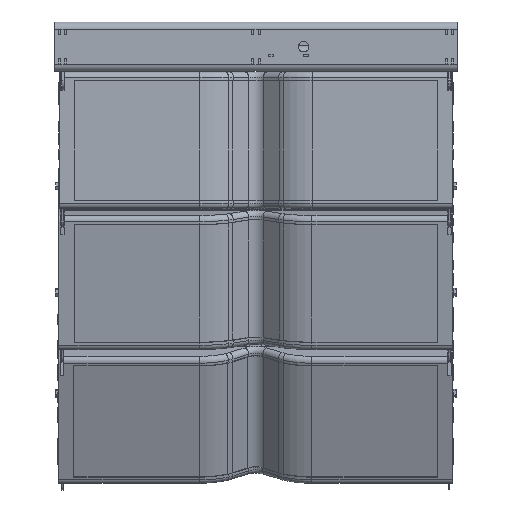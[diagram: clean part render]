
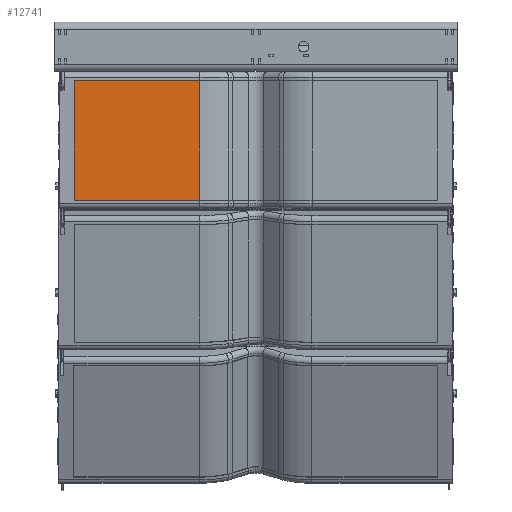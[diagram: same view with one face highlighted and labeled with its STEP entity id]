
A CAD part, front view. The second image highlights one B-rep face of the part: STEP entity #12741.
In plain terms, the highlighted planar face has unit normal (0, -1, 0) as drawn and (1, 0, 0) by its records, which use the part's own axes.
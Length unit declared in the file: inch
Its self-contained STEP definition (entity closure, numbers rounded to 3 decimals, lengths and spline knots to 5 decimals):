
#1922=FACE_OUTER_BOUND('',#2794,.T.);
#2794=EDGE_LOOP('',(#10690,#10691,#10692,#10693));
#4065=LINE('',#21143,#5183);
#4066=LINE('',#21147,#5184);
#4067=LINE('',#21149,#5185);
#4068=LINE('',#21150,#5186);
#5183=VECTOR('',#17073,8.5145);
#5184=VECTOR('',#17078,8.92315);
#5185=VECTOR('',#17079,8.5145);
#5186=VECTOR('',#17080,8.92315);
#6325=VERTEX_POINT('',#21140);
#6326=VERTEX_POINT('',#21142);
#6327=VERTEX_POINT('',#21146);
#6328=VERTEX_POINT('',#21148);
#7885=EDGE_CURVE('',#6325,#6326,#4065,.T.);
#7887=EDGE_CURVE('',#6325,#6327,#4066,.T.);
#7888=EDGE_CURVE('',#6327,#6328,#4067,.T.);
#7889=EDGE_CURVE('',#6326,#6328,#4068,.T.);
#10690=ORIENTED_EDGE('',*,*,#7887,.T.);
#10691=ORIENTED_EDGE('',*,*,#7888,.T.);
#10692=ORIENTED_EDGE('',*,*,#7889,.F.);
#10693=ORIENTED_EDGE('',*,*,#7885,.F.);
#12229=PLANE('',#13974);
#12741=ADVANCED_FACE('',(#1922),#12229,.T.);
#13974=AXIS2_PLACEMENT_3D('',#21145,#17076,#17077);
#17073=DIRECTION('',(0.,-1.,0.));
#17076=DIRECTION('center_axis',(1.,0.,0.));
#17077=DIRECTION('ref_axis',(0.,0.,-1.));
#17078=DIRECTION('',(0.,0.,1.));
#17079=DIRECTION('',(0.,-1.,0.));
#17080=DIRECTION('',(0.,0.,1.));
#21140=CARTESIAN_POINT('',(2.3494,4.25725,-10.0017));
#21142=CARTESIAN_POINT('',(2.3494,-4.25725,-10.0017));
#21143=CARTESIAN_POINT('',(2.3494,4.25725,-10.0017));
#21145=CARTESIAN_POINT('Origin',(2.3494,30.74133,-10.0017));
#21146=CARTESIAN_POINT('',(2.3494,4.25725,-1.07855));
#21147=CARTESIAN_POINT('',(2.3494,4.25725,-10.0017));
#21148=CARTESIAN_POINT('',(2.3494,-4.25725,-1.07855));
#21149=CARTESIAN_POINT('',(2.3494,4.25725,-1.07855));
#21150=CARTESIAN_POINT('',(2.3494,-4.25725,-10.0017));
